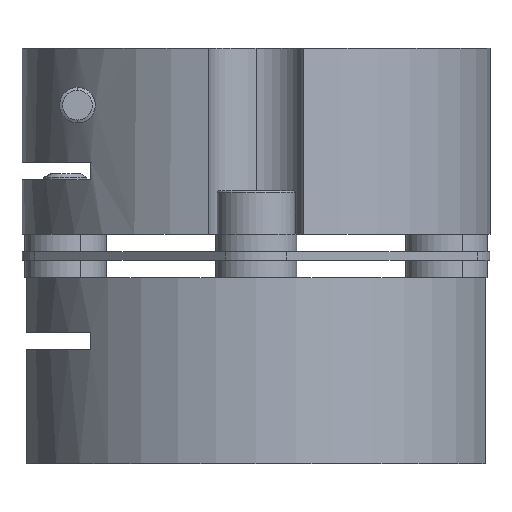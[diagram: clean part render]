
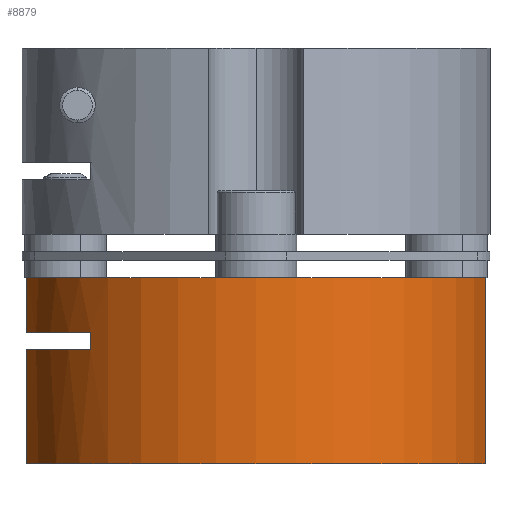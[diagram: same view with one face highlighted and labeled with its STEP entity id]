
A CAD part, front view. The second image highlights one B-rep face of the part: STEP entity #8879.
In plain terms, the highlighted cylindrical face has radius 13.5 mm (diameter 27 mm), a partial arc.
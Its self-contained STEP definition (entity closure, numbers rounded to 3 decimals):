
#23 = CARTESIAN_POINT ( 'NONE',  ( 32.982, 43.247, 95.605 ) ) ;
#38 = DIRECTION ( 'NONE',  ( 1., 0., 0. ) ) ;
#268 = DIRECTION ( 'NONE',  ( 0., 0., -1. ) ) ;
#459 = VERTEX_POINT ( 'NONE', #7888 ) ;
#528 = VECTOR ( 'NONE', #268, 1000. ) ;
#704 = VECTOR ( 'NONE', #4500, 1000. ) ;
#869 = CIRCLE ( 'NONE', #11726, 13.5 ) ;
#892 = EDGE_CURVE ( 'NONE', #5762, #459, #11221, .T. ) ;
#1198 = LINE ( 'NONE', #23, #528 ) ;
#1294 = ORIENTED_EDGE ( 'NONE', *, *, #2836, .F. ) ;
#1621 = ORIENTED_EDGE ( 'NONE', *, *, #12756, .T. ) ;
#2129 = DIRECTION ( 'NONE',  ( 0., 0., -1. ) ) ;
#2133 = CARTESIAN_POINT ( 'NONE',  ( 10.22, 36.451, 91.455 ) ) ;
#2173 = EDGE_CURVE ( 'NONE', #6357, #9148, #3444, .T. ) ;
#2214 = CARTESIAN_POINT ( 'NONE',  ( 10.22, 36.451, 95.605 ) ) ;
#2446 = EDGE_CURVE ( 'NONE', #5889, #9148, #10716, .T. ) ;
#2560 = EDGE_CURVE ( 'NONE', #5889, #5762, #4547, .T. ) ;
#2685 = EDGE_CURVE ( 'NONE', #459, #7530, #6586, .T. ) ;
#2836 = EDGE_CURVE ( 'NONE', #5116, #5938, #1198, .T. ) ;
#2944 = FACE_OUTER_BOUND ( 'NONE', #10483, .T. ) ;
#3002 = EDGE_CURVE ( 'NONE', #6357, #5116, #3281, .T. ) ;
#3281 = CIRCLE ( 'NONE', #5278, 13.5 ) ;
#3444 = LINE ( 'NONE', #6200, #704 ) ;
#3477 = CARTESIAN_POINT ( 'NONE',  ( 6.549, 43.247, 84.855 ) ) ;
#3900 = VECTOR ( 'NONE', #2129, 1000. ) ;
#4313 = ORIENTED_EDGE ( 'NONE', *, *, #2685, .T. ) ;
#4378 = CARTESIAN_POINT ( 'NONE',  ( 6.549, 43.247, 95.605 ) ) ;
#4494 = CARTESIAN_POINT ( 'NONE',  ( 19.766, 45.997, 95.605 ) ) ;
#4500 = DIRECTION ( 'NONE',  ( 0., 0., -1. ) ) ;
#4547 = LINE ( 'NONE', #2214, #5498 ) ;
#4777 = DIRECTION ( 'NONE',  ( -1., 0., 0. ) ) ;
#4842 = DIRECTION ( 'NONE',  ( 0., 0., -1. ) ) ;
#5116 = VERTEX_POINT ( 'NONE', #10154 ) ;
#5278 = AXIS2_PLACEMENT_3D ( 'NONE', #11807, #11749, #11406 ) ;
#5498 = VECTOR ( 'NONE', #4842, 1000. ) ;
#5584 = AXIS2_PLACEMENT_3D ( 'NONE', #9319, #9266, #9169 ) ;
#5762 = VERTEX_POINT ( 'NONE', #2133 ) ;
#5889 = VERTEX_POINT ( 'NONE', #11512 ) ;
#5938 = VERTEX_POINT ( 'NONE', #11091 ) ;
#6168 = DIRECTION ( 'NONE',  ( 0., 0., 1. ) ) ;
#6200 = CARTESIAN_POINT ( 'NONE',  ( 6.549, 43.247, 95.605 ) ) ;
#6357 = VERTEX_POINT ( 'NONE', #4378 ) ;
#6377 = AXIS2_PLACEMENT_3D ( 'NONE', #11665, #11638, #4777 ) ;
#6586 = LINE ( 'NONE', #8162, #3900 ) ;
#7046 = CYLINDRICAL_SURFACE ( 'NONE', #13255, 13.5 ) ;
#7323 = ORIENTED_EDGE ( 'NONE', *, *, #892, .T. ) ;
#7452 = CARTESIAN_POINT ( 'NONE',  ( 6.549, 43.247, 92.455 ) ) ;
#7510 = DIRECTION ( 'NONE',  ( 0., 0., -1. ) ) ;
#7530 = VERTEX_POINT ( 'NONE', #3477 ) ;
#7888 = CARTESIAN_POINT ( 'NONE',  ( 6.549, 43.247, 91.455 ) ) ;
#8162 = CARTESIAN_POINT ( 'NONE',  ( 6.549, 43.247, 95.605 ) ) ;
#8879 = ADVANCED_FACE ( 'NONE', ( #2944 ), #7046, .T. ) ;
#9148 = VERTEX_POINT ( 'NONE', #7452 ) ;
#9169 = DIRECTION ( 'NONE',  ( -1., 0., 0. ) ) ;
#9266 = DIRECTION ( 'NONE',  ( 0., 0., -1. ) ) ;
#9319 = CARTESIAN_POINT ( 'NONE',  ( 19.766, 45.997, 92.455 ) ) ;
#10154 = CARTESIAN_POINT ( 'NONE',  ( 32.982, 43.247, 95.605 ) ) ;
#10483 = EDGE_LOOP ( 'NONE', ( #13152, #12843, #7323, #4313, #1621, #1294, #11942, #11309 ) ) ;
#10716 = CIRCLE ( 'NONE', #5584, 13.5 ) ;
#11091 = CARTESIAN_POINT ( 'NONE',  ( 32.982, 43.247, 84.855 ) ) ;
#11221 = CIRCLE ( 'NONE', #6377, 13.5 ) ;
#11309 = ORIENTED_EDGE ( 'NONE', *, *, #2173, .T. ) ;
#11406 = DIRECTION ( 'NONE',  ( 1., 0., 0. ) ) ;
#11512 = CARTESIAN_POINT ( 'NONE',  ( 10.22, 36.451, 92.455 ) ) ;
#11638 = DIRECTION ( 'NONE',  ( 0., 0., -1. ) ) ;
#11665 = CARTESIAN_POINT ( 'NONE',  ( 19.766, 45.997, 91.455 ) ) ;
#11726 = AXIS2_PLACEMENT_3D ( 'NONE', #12434, #6168, #38 ) ;
#11749 = DIRECTION ( 'NONE',  ( 0., 0., 1. ) ) ;
#11767 = DIRECTION ( 'NONE',  ( -1., 0., 0. ) ) ;
#11807 = CARTESIAN_POINT ( 'NONE',  ( 19.766, 45.997, 95.605 ) ) ;
#11942 = ORIENTED_EDGE ( 'NONE', *, *, #3002, .F. ) ;
#12434 = CARTESIAN_POINT ( 'NONE',  ( 19.766, 45.997, 84.855 ) ) ;
#12756 = EDGE_CURVE ( 'NONE', #7530, #5938, #869, .T. ) ;
#12843 = ORIENTED_EDGE ( 'NONE', *, *, #2560, .T. ) ;
#13152 = ORIENTED_EDGE ( 'NONE', *, *, #2446, .F. ) ;
#13255 = AXIS2_PLACEMENT_3D ( 'NONE', #4494, #7510, #11767 ) ;
